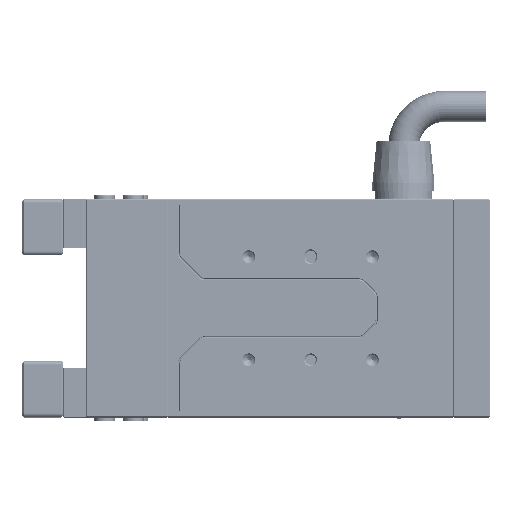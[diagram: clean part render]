
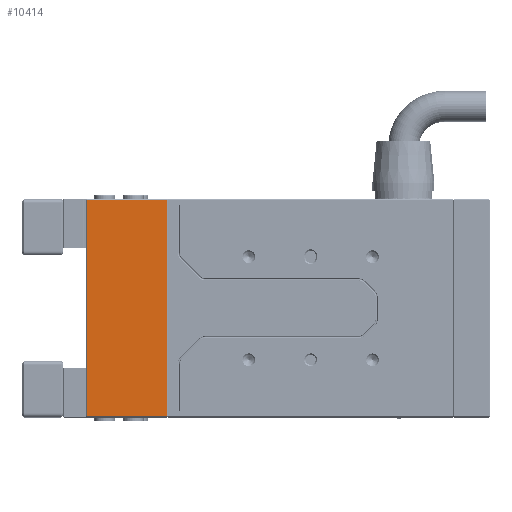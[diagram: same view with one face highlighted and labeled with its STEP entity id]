
A CAD part, left-side view. The second image highlights one B-rep face of the part: STEP entity #10414.
In plain terms, the highlighted planar face has unit normal (-1, 0, 0).
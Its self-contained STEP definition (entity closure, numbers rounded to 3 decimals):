
#9555 = EDGE_CURVE ( 'NONE', #25067, #147180, #39197, .T. ) ;
#10414 = ADVANCED_FACE ( 'NONE', ( #111945 ), #73591, .F. ) ;
#14221 = CARTESIAN_POINT ( 'NONE',  ( -14., 0.3, 26.2 ) ) ;
#16335 = ORIENTED_EDGE ( 'NONE', *, *, #66051, .T. ) ;
#19964 = ORIENTED_EDGE ( 'NONE', *, *, #9555, .T. ) ;
#20225 = LINE ( 'NONE', #131213, #134579 ) ;
#25067 = VERTEX_POINT ( 'NONE', #54264 ) ;
#25274 = VECTOR ( 'NONE', #106588, 1000. ) ;
#38131 = ORIENTED_EDGE ( 'NONE', *, *, #55961, .T. ) ;
#38240 = CARTESIAN_POINT ( 'NONE',  ( -14., 0., -26.2 ) ) ;
#39197 = LINE ( 'NONE', #144413, #96305 ) ;
#51141 = DIRECTION ( 'NONE',  ( 1., 0., 0. ) ) ;
#54264 = CARTESIAN_POINT ( 'NONE',  ( -14., 0.3, -26.2 ) ) ;
#55961 = EDGE_CURVE ( 'NONE', #130620, #25067, #93133, .T. ) ;
#62029 = CARTESIAN_POINT ( 'NONE',  ( -14., 19.7, 26.2 ) ) ;
#64885 = ORIENTED_EDGE ( 'NONE', *, *, #93374, .T. ) ;
#66051 = EDGE_CURVE ( 'NONE', #128362, #130620, #20225, .T. ) ;
#66154 = LINE ( 'NONE', #119248, #126918 ) ;
#73591 = PLANE ( 'NONE',  #97254 ) ;
#87439 = DIRECTION ( 'NONE',  ( 0., 0., 1. ) ) ;
#93133 = LINE ( 'NONE', #38240, #25274 ) ;
#93374 = EDGE_CURVE ( 'NONE', #147180, #128362, #66154, .T. ) ;
#96130 = EDGE_LOOP ( 'NONE', ( #64885, #16335, #38131, #19964 ) ) ;
#96305 = VECTOR ( 'NONE', #87439, 1000. ) ;
#97254 = AXIS2_PLACEMENT_3D ( 'NONE', #119454, #51141, #130993 ) ;
#106588 = DIRECTION ( 'NONE',  ( 0., -1., 0. ) ) ;
#111945 = FACE_OUTER_BOUND ( 'NONE', #96130, .T. ) ;
#119248 = CARTESIAN_POINT ( 'NONE',  ( -14., 0., 26.2 ) ) ;
#119454 = CARTESIAN_POINT ( 'NONE',  ( -14., 0., 26.5 ) ) ;
#126918 = VECTOR ( 'NONE', #141778, 1000. ) ;
#128362 = VERTEX_POINT ( 'NONE', #62029 ) ;
#130620 = VERTEX_POINT ( 'NONE', #139646 ) ;
#130993 = DIRECTION ( 'NONE',  ( 0., 0., -1. ) ) ;
#131213 = CARTESIAN_POINT ( 'NONE',  ( -14., 19.7, 26.5 ) ) ;
#134579 = VECTOR ( 'NONE', #142710, 1000. ) ;
#139646 = CARTESIAN_POINT ( 'NONE',  ( -14., 19.7, -26.2 ) ) ;
#141778 = DIRECTION ( 'NONE',  ( 0., 1., 0. ) ) ;
#142710 = DIRECTION ( 'NONE',  ( 0., 0., -1. ) ) ;
#144413 = CARTESIAN_POINT ( 'NONE',  ( -14., 0.3, 26.5 ) ) ;
#147180 = VERTEX_POINT ( 'NONE', #14221 ) ;
